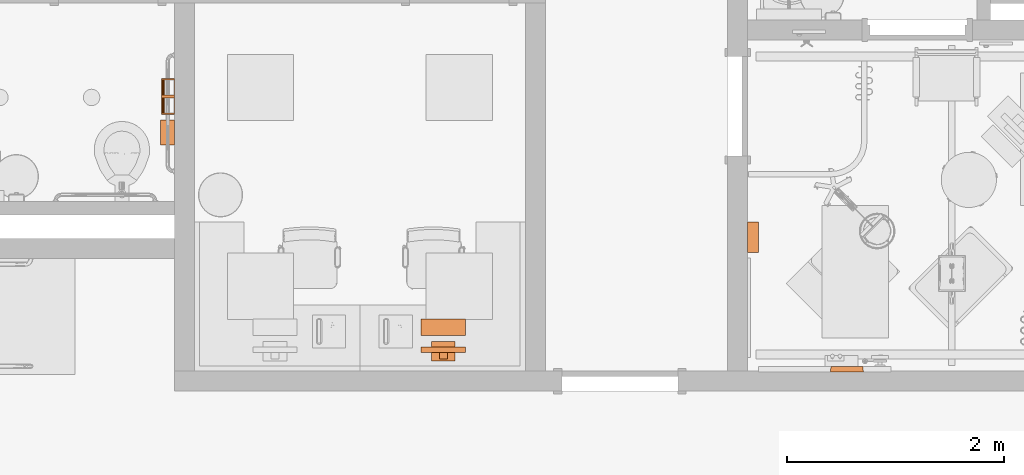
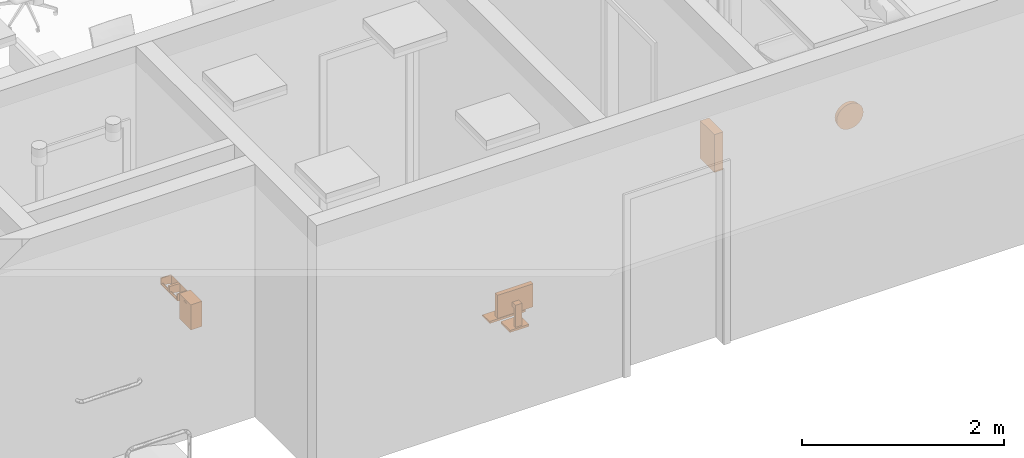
# One storey, part 82 of 142: 5 proxies.
"""IFC2X3 building model written with IfcOpenShell, lengths in feet."""

from ifc_helpers import new_model, entity, si_unit, converted_unit, derived_unit, direction, frame, frame_2d, origin, origin_2d_with_axis, place, context, subcontext, project, spatial, polyline, rectangle, circle, outline, extrude, faceted_brep, source, transform, mapped, type_object, type_shapes, element, save


model = new_model("IFC2X3")

# Units and contexts
model_context = context("Model", 3, precision=0.0001, world=origin(), true_north=direction((6.12303176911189e-17, 1.0)))
body_context = subcontext(model_context, "Body", "Model", "MODEL_VIEW")
ifc_project = project(units=[converted_unit("LENGTHUNIT", "FOOT", entity("IfcRatioMeasure", 0.3048), si_unit("LENGTHUNIT", "METRE"), dimensions=[1, 0, 0, 0, 0, 0, 0]), converted_unit("AREAUNIT", "SQUARE FOOT", entity("IfcRatioMeasure", 0.09290304), si_unit("AREAUNIT", "SQUARE_METRE"), dimensions=[2, 0, 0, 0, 0, 0, 0]), converted_unit("VOLUMEUNIT", "CUBIC FOOT", entity("IfcRatioMeasure", 0.028316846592), si_unit("VOLUMEUNIT", "CUBIC_METRE"), dimensions=[3, 0, 0, 0, 0, 0, 0]), converted_unit("PLANEANGLEUNIT", "DEGREE", entity("IfcRatioMeasure", 0.0174532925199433), si_unit("PLANEANGLEUNIT", "RADIAN"), dimensions=[0, 0, 0, 0, 0, 0, 0]), si_unit("MASSUNIT", "GRAM", prefix="KILO"), derived_unit("MASSDENSITYUNIT", [(si_unit("MASSUNIT", "GRAM", prefix="KILO"), 1), (si_unit("LENGTHUNIT", "METRE"), -3)]), si_unit("TIMEUNIT", "SECOND"), si_unit("FREQUENCYUNIT", "HERTZ"), si_unit("THERMODYNAMICTEMPERATUREUNIT", "DEGREE_CELSIUS"), derived_unit("THERMALTRANSMITTANCEUNIT", [(si_unit("MASSUNIT", "GRAM", prefix="KILO"), 1), (si_unit("THERMODYNAMICTEMPERATUREUNIT", "KELVIN"), -1), (si_unit("TIMEUNIT", "SECOND"), -3)]), derived_unit("VOLUMETRICFLOWRATEUNIT", [(si_unit("LENGTHUNIT", "METRE"), 3), (si_unit("TIMEUNIT", "SECOND"), -1)]), si_unit("ELECTRICCURRENTUNIT", "AMPERE"), si_unit("ELECTRICVOLTAGEUNIT", "VOLT"), si_unit("POWERUNIT", "WATT"), si_unit("FORCEUNIT", "NEWTON"), si_unit("ILLUMINANCEUNIT", "LUX"), si_unit("LUMINOUSFLUXUNIT", "LUMEN"), si_unit("LUMINOUSINTENSITYUNIT", "CANDELA"), derived_unit("USERDEFINED", [(si_unit("MASSUNIT", "GRAM", prefix="KILO"), -1), (si_unit("LENGTHUNIT", "METRE"), -2), (si_unit("TIMEUNIT", "SECOND"), 3), (si_unit("LUMINOUSFLUXUNIT", "LUMEN"), 1)]), derived_unit("LINEARVELOCITYUNIT", [(si_unit("LENGTHUNIT", "METRE"), 1), (si_unit("TIMEUNIT", "SECOND"), -1)]), si_unit("PRESSUREUNIT", "PASCAL"), derived_unit("USERDEFINED", [(si_unit("LENGTHUNIT", "METRE"), -2), (si_unit("MASSUNIT", "GRAM", prefix="KILO"), 1), (si_unit("TIMEUNIT", "SECOND"), -2)])], contexts=[model_context])

# Site, building, storey, space
site_placement = place(None, origin())
site = spatial("IfcSite", under=ifc_project, at=site_placement, Name="Default", CompositionType="ELEMENT")
building_placement = place(site_placement, origin())
building = spatial("IfcBuilding", under=site, at=building_placement, Name="OUTPATIENT / PACT CLINIC (Ch. 265)", CompositionType="ELEMENT")
storey_placement = place(building_placement, origin())
storey = spatial("IfcBuildingStorey", under=building, at=storey_placement, Name="LEVEL 1", CompositionType="ELEMENT", Elevation=0.0)
space_1_placement = place(storey_placement, origin())
space_1 = spatial("IfcSpace", under=storey, at=space_1_placement, Name="FA01", CompositionType="ELEMENT", InteriorOrExteriorSpace="INTERNAL")

# Proxy
building_element_proxy_type_1 = type_object("IfcBuildingElementProxyType", Name="M1801 - Computer with Flat Panel Monitor", PredefinedType="NOTDEFINED")
shared_shape_1 = source(origin(), body_context, "Body", "Brep", [
    faceted_brep([(0.666666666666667, 0.5625, 0.0), (0.666666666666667, 0.5625, 0.0416666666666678), (0.666666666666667, 0.0624999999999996, 0.0833333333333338), (0.666666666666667, 0.0624999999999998, 0.0), (-0.666666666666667, 0.5625, 0.0), (-0.666666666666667, 0.0624999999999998, 0.0), (-0.666666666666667, 0.0624999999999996, 0.0833333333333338), (-0.666666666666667, 0.5625, 0.0416666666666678)], [[[0, 1, 2, 3]], [[4, 5, 6, 7]], [[3, 5, 4, 0]], [[2, 6, 5, 3]], [[1, 7, 6, 2]], [[0, 4, 7, 1]]]),
    faceted_brep([(0.666666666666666, -0.437223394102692, 1.41666666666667), (0.666666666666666, -0.271109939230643, 1.41666666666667), (-0.666666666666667, -0.271109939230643, 1.41666666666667), (-0.666666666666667, -0.437223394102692, 1.41666666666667), (0.666666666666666, -0.437223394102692, 0.500000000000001), (-0.666666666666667, -0.437223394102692, 0.500000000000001), (-0.666666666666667, -0.271109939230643, 0.500000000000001), (0.666666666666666, -0.271109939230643, 0.500000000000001), (-0.625, -0.271109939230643, 1.375), (-0.625, -0.271109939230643, 0.541666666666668), (0.625, -0.271109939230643, 0.541666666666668), (0.625, -0.271109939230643, 1.375), (0.625, -0.286812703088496, 1.375), (-0.625, -0.286812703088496, 1.375), (0.625, -0.286812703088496, 0.541666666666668), (-0.625, -0.286812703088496, 0.541666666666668)], [[[0, 1, 2, 3]], [[4, 5, 6, 7]], [[3, 5, 4, 0]], [[2, 6, 5, 3]], [[8, 9, 10, 11], [1, 7, 6, 2]], [[0, 4, 7, 1]], [[12, 13, 8, 11]], [[14, 10, 9, 15]], [[12, 14, 15, 13]], [[13, 15, 9, 8]], [[11, 10, 14, 12]]], outer=[[True], [True], [True], [True], [False, True], [True], [True], [True], [True], [True], [True]]),
    faceted_brep([(0.358011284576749, -0.111770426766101, 0.0833333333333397), (0.358011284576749, -0.708333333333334, 0.0833333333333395), (0.358011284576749, -0.708333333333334, 0.0), (0.358011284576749, -0.111770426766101, 0.0), (-0.358011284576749, -0.708333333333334, 0.0833333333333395), (-0.358011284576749, -0.111770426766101, 0.0833333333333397), (-0.358011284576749, -0.111770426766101, 0.0), (-0.358011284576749, -0.708333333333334, 0.0), (0.12128795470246, -0.645556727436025, 0.104166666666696), (-0.12128795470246, -0.645556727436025, 0.104166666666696), (-0.12128795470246, -0.645556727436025, 0.0833333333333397), (0.12128795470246, -0.645556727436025, 0.0833333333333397), (0.12128795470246, -0.645556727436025, 0.958333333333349), (-0.12128795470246, -0.645556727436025, 0.958333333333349), (0.12128795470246, -0.437223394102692, 0.958333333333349), (-0.12128795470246, -0.437223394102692, 0.958333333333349), (0.12128795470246, -0.437223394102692, 0.791666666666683), (-0.12128795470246, -0.437223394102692, 0.791666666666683), (0.12128795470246, -0.562223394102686, 0.791666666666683), (-0.12128795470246, -0.562223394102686, 0.791666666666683), (0.12128795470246, -0.562223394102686, 0.0833333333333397), (-0.12128795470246, -0.562223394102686, 0.0833333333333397)], [[[0, 1, 2, 3]], [[4, 5, 6, 7]], [[8, 9, 10, 11]], [[12, 13, 9, 8]], [[14, 15, 13, 12]], [[16, 17, 15, 14]], [[18, 19, 17, 16]], [[20, 21, 19, 18]], [[11, 10, 21, 20], [0, 5, 4, 1]], [[3, 6, 5, 0]], [[2, 7, 6, 3]], [[1, 4, 7, 2]], [[20, 18, 16, 14, 12, 8, 11]], [[10, 9, 13, 15, 17, 19, 21]]], outer=[[True], [True], [True], [True], [True], [True], [True], [True], [False, True], [True], [True], [True], [True], [True]]),
])
type_shapes(building_element_proxy_type_1, [shared_shape_1])
proxy_1_placement = place(space_1_placement, frame((426.06606468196, -951.642848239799, 2.49999999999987)))
element("IfcBuildingElementProxy", 1, at=proxy_1_placement, inside=space_1, type_object=building_element_proxy_type_1, Name="M1801 - Computer with Flat Panel Monitor:M1801 - Computer with Flat Panel Monitor", ObjectType="M1801 - Computer with Flat Panel Monitor", context=body_context, shape_type="MappedRepresentation", body=[
    mapped(shared_shape_1, transform((0.0, 0.0, 0.0), scale=1.0)),
])

# Space
space_2_placement = place(storey_placement, origin())
space_2 = spatial("IfcSpace", under=storey, at=space_2_placement, Name="EXW01", CompositionType="ELEMENT", InteriorOrExteriorSpace="INTERNAL")

# Proxy
building_element_proxy_type_2 = type_object("IfcBuildingElementProxyType", Name="A5107 - Dispenser, Glove, Surgical-Examination, Wall Mntd 10\"x 4\"", PredefinedType="NOTDEFINED")
shared_shape_2 = source(origin(), body_context, "Body", "SweptSolid", [
    extrude(rectangle(XDim=0.916666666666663, YDim=0.333333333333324, at=frame_2d((0.0, 2.77555756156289e-17), x_axis=(1.0, 0.0))), frame((0.0, -0.166666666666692, 0.0), z_axis=(0.0, 0.0, 1.0), x_axis=(-1.0, 0.0, 0.0)), (0.0, 0.0, 1.0), 1.5),
])
type_shapes(building_element_proxy_type_2, [shared_shape_2])
proxy_2_placement = place(space_2_placement, frame((435.254977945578, -948.607989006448, 3.5), z_axis=(0.0, 0.0, 1.0), x_axis=(0.0, 1.0, 0.0)))
element("IfcBuildingElementProxy", 2, at=proxy_2_placement, inside=space_2, type_object=building_element_proxy_type_2, Name="A5107 - Dispenser, Glove, Surgical-Examination, Wall Mntd1:A5107 - Dispenser, Glove, Surgical-Examination, Wall Mntd 10\"x 4\"", ObjectType="A5107 - Dispenser, Glove, Surgical-Examination, Wall Mntd 10\"x 4\"", context=body_context, shape_type="MappedRepresentation", body=[
    mapped(shared_shape_2, transform((0.0, 0.0, 0.0), scale=1.0)),
])

# Space
space_3_placement = place(storey_placement, origin())
space_3 = spatial("IfcSpace", under=storey, at=space_3_placement, Name="TNPG1", CompositionType="ELEMENT", InteriorOrExteriorSpace="INTERNAL")

# Proxies
building_element_proxy_type_3 = type_object("IfcBuildingElementProxyType", Name="A5090 - Dispenser, Sanitary Napkin, SS, Surface Mounted", PredefinedType="NOTDEFINED")
shared_shape_3 = source(origin(), body_context, "Body", "SweptSolid", [
    extrude(rectangle(XDim=0.75, YDim=0.0833333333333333, at=frame_2d((0.0, -6.93889390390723e-18), x_axis=(1.0, 0.0))), frame((0.0, 0.0416666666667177, 0.87500000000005), z_axis=(0.0, 0.0, 1.0), x_axis=(-1.0, 0.0, 0.0)), (0.0, 0.0, 1.0), 0.125000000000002),
    extrude(outline(polyline([(-0.0828981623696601, -0.378205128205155), (0.0421018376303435, -0.378205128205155), (0.042101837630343, -0.0865384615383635), (0.0166807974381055, -0.0793339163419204), (-0.0043447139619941, -0.0589660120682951), (-0.017339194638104, -0.0289565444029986), (-0.0200557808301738, 0.0055055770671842), (-0.0120247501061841, 0.038461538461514), (0.00536525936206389, 0.0642129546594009), (0.0291073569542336, 0.0783071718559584), (0.0421018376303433, 0.0801282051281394), (0.0421018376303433, 0.371794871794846), (-0.0828981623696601, 0.371794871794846), (-0.0828981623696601, -0.378205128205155)])), frame((-0.00320512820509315, 0.0833333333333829, 0.917101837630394), z_axis=(0.0, 1.0, 0.0), x_axis=(0.0, 0.0, -1.0)), (0.0, 0.0, 1.0), 0.333333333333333),
    extrude(rectangle(XDim=0.749999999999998, YDim=0.416666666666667, at=origin_2d_with_axis()), frame((0.0, 0.208333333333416, 0.0), z_axis=(0.0, 0.0, 1.0), x_axis=(-1.0, 0.0, 0.0)), (0.0, 0.0, 1.0), 0.875000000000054),
])
type_shapes(building_element_proxy_type_3, [shared_shape_3])
proxy_3_placement = place(space_3_placement, frame((417.942616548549, -945.441322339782, 1.5), z_axis=(0.0, 0.0, 1.0), x_axis=(0.0, 1.0, 0.0)))
element("IfcBuildingElementProxy", 3, at=proxy_3_placement, inside=space_3, type_object=building_element_proxy_type_3, Name="A5090 - Dispenser, Sanitary Napkin, SS, Surface Mounted1:A5090 - Dispenser, Sanitary Napkin, SS, Surface Mounted", ObjectType="A5090 - Dispenser, Sanitary Napkin, SS, Surface Mounted", context=body_context, shape_type="MappedRepresentation", body=[
    mapped(shared_shape_3, transform((0.0, 0.0, 0.0), scale=1.0)),
])
building_element_proxy_type_4 = type_object("IfcBuildingElementProxyType", Name="A5200 - Dispenser, Toilet Tissue, SS, 2-Roll, Surface Mntd", PredefinedType="NOTDEFINED")
shared_shape_4 = source(origin(), body_context, "Body", "SweptSolid", [
    extrude(circle(Radius=0.0439072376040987, at=frame_2d((-9.86076131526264e-32, 1.11022302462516e-16), x_axis=(1.0, 0.0))), frame((0.0468750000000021, 0.344872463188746, 0.125668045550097), z_axis=(1.0, 0.0, 0.0), x_axis=(0.0, 0.0, 1.0)), (0.0, 0.0, 1.0), 0.453124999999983),
    extrude(circle(Radius=0.0061848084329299, at=origin_2d_with_axis()), frame((0.0468750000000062, 0.34487246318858, 0.125668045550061), z_axis=(1.0, 0.0, 0.0), x_axis=(0.0, 1.0, 0.0)), (0.0, 0.0, 1.0), 0.453124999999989),
    extrude(circle(Radius=0.0439072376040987, at=frame_2d((1.97215226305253e-31, -2.22044604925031e-16), x_axis=(1.0, 0.0))), frame((-0.500000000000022, 0.344872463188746, 0.125668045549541), z_axis=(1.0, 0.0, 0.0), x_axis=(0.0, 0.0, 1.0)), (0.0, 0.0, 1.0), 0.453124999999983),
    extrude(rectangle(XDim=0.541666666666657, YDim=0.0104166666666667, at=frame_2d((0.0, -4.33680868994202e-19), x_axis=(1.0, 0.0))), frame((0.270833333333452, 0.00520833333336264, 0.0), z_axis=(0.0, 0.0, 1.0), x_axis=(-1.0, 0.0, 0.0)), (0.0, 0.0, 1.0), 0.375668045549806),
    extrude(outline(polyline([(-0.225313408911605, -0.140625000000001), (0.150354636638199, -0.140625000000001), (0.150354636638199, -0.114583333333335), (0.108687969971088, -0.114583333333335), (0.0412295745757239, 0.255208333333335), (-0.225313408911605, 0.255208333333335), (-0.225313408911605, -0.140625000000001)])), frame((0.0, 0.140625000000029, 0.15035463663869), z_axis=(1.0, 0.0, 0.0), x_axis=(0.0, 0.0, -1.0)), (0.0, 0.0, 1.0), 0.0468750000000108),
    extrude(outline(polyline([(-0.225313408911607, -0.140625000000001), (0.150354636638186, -0.140625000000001), (0.150354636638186, -0.114583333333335), (0.108687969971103, -0.114583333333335), (0.0412295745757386, 0.255208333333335), (-0.225313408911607, 0.255208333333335), (-0.225313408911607, -0.140625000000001)])), frame((0.49999999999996, 0.140625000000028, 0.150354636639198), z_axis=(1.0, 0.0, 0.0), x_axis=(0.0, 0.0, -1.0)), (0.0, 0.0, 1.0), 0.0416666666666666),
    extrude(circle(Radius=0.0061848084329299, at=frame_2d((2.46519032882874e-32, -2.77555756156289e-17), x_axis=(1.0, 0.0))), frame((-0.500000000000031, 0.344872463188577, 0.125668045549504), z_axis=(1.0, 0.0, 0.0), x_axis=(0.0, 1.0, 0.0)), (0.0, 0.0, 1.0), 0.453124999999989),
    extrude(rectangle(XDim=0.541666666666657, YDim=0.0104166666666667, at=frame_2d((0.0, 4.33680868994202e-19), x_axis=(1.0, 0.0))), frame((-0.27083333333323, 0.00520833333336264, 0.0), z_axis=(0.0, 0.0, 1.0), x_axis=(-1.0, 0.0, 0.0)), (0.0, 0.0, 1.0), 0.375668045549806),
    extrude(outline(polyline([(-0.225313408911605, -0.140625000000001), (0.150354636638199, -0.140625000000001), (0.150354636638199, -0.114583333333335), (0.108687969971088, -0.114583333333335), (0.041229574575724, 0.255208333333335), (-0.225313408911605, 0.255208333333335), (-0.225313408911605, -0.140625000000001)])), frame((-0.0468750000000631, 0.140625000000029, 0.150354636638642), z_axis=(1.0, 0.0, 0.0), x_axis=(0.0, 0.0, -1.0)), (0.0, 0.0, 1.0), 0.0468750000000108),
    extrude(outline(polyline([(-0.225313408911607, -0.140625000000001), (0.150354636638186, -0.140625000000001), (0.150354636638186, -0.114583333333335), (0.108687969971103, -0.114583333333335), (0.0412295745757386, 0.255208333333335), (-0.225313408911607, 0.255208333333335), (-0.225313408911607, -0.140625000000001)])), frame((-0.541666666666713, 0.140625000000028, 0.150354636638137), z_axis=(1.0, 0.0, 0.0), x_axis=(0.0, 0.0, -1.0)), (0.0, 0.0, 1.0), 0.0416666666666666),
])
type_shapes(building_element_proxy_type_4, [shared_shape_4])
proxy_4_placement = place(space_3_placement, frame((417.942616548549, -944.357989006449, 1.97884114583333), z_axis=(0.0, 0.0, 1.0), x_axis=(0.0, 1.0, 0.0)))
element("IfcBuildingElementProxy", 4, at=proxy_4_placement, inside=space_3, type_object=building_element_proxy_type_4, Name="A5200 - Dispenser, Toilet Tissue, SS, 2-Roll, Surface Mntd1:A5200 - Dispenser, Toilet Tissue, SS, 2-Roll, Surface Mntd", ObjectType="A5200 - Dispenser, Toilet Tissue, SS, 2-Roll, Surface Mntd", context=body_context, shape_type="MappedRepresentation", body=[
    mapped(shared_shape_4, transform((0.0, 0.0, 0.0), scale=1.0)),
])
building_element_proxy_type_5 = type_object("IfcBuildingElementProxyType", Name="F3200 - Clock, Battery, 12in Dia", PredefinedType="NOTDEFINED")
shared_shape_5 = source(origin(), body_context, "Body", "Brep", [
    faceted_brep([(0.0527623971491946, -0.166666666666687, -0.0087350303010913), (0.143371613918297, -0.166666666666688, 0.0607918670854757), (0.212898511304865, -0.16666666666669, 0.151401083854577), (0.256604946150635, -0.166666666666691, 0.256917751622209), (0.271512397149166, -0.166666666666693, 0.370151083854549), (0.256604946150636, -0.166666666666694, 0.483384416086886), (0.212898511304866, -0.166666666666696, 0.588901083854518), (0.143371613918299, -0.166666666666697, 0.67951030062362), (0.052762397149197, -0.166666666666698, 0.749037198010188), (-0.0527542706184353, -0.166666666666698, 0.792743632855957), (-0.165987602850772, -0.166666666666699, 0.807651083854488), (-0.279220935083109, -0.166666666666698, 0.792743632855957), (-0.384737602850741, -0.166666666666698, 0.749037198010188), (-0.475346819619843, -0.166666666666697, 0.679510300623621), (-0.544873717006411, -0.166666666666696, 0.588901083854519), (-0.588580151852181, -0.166666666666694, 0.483384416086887), (-0.603487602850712, -0.166666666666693, 0.37015108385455), (-0.588580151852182, -0.166666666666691, 0.256917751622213), (-0.544873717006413, -0.16666666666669, 0.151401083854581), (-0.475346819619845, -0.166666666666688, 0.0607918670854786), (-0.384737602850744, -0.166666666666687, -0.0087350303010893), (-0.279220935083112, -0.166666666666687, -0.052441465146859), (-0.165987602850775, -0.166666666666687, -0.0673489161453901), (-0.0527542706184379, -0.166666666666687, -0.0524414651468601), (0.256604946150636, -0.145833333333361, 0.483384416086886), (0.271512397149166, -0.145833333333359, 0.370151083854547), (0.256604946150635, -0.145833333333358, 0.256917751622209), (0.212898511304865, -0.145833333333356, 0.151401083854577), (0.143371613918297, -0.145833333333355, 0.0607918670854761), (0.0527623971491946, -0.145833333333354, -0.00873503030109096), (-0.0527542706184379, -0.145833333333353, -0.0524414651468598), (-0.165987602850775, -0.145833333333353, -0.0673489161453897), (-0.279220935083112, -0.145833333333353, -0.0524414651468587), (-0.384737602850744, -0.145833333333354, -0.00873503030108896), (-0.475346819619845, -0.145833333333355, 0.060791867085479), (-0.544873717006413, -0.145833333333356, 0.151401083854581), (-0.588580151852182, -0.145833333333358, 0.256917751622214), (-0.603487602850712, -0.145833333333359, 0.37015108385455), (-0.588580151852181, -0.145833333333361, 0.483384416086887), (-0.544873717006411, -0.145833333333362, 0.588901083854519), (-0.475346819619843, -0.145833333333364, 0.679510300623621), (-0.384737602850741, -0.145833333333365, 0.749037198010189), (-0.279220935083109, -0.145833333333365, 0.792743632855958), (-0.165987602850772, -0.145833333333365, 0.807651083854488), (-0.0527542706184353, -0.145833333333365, 0.792743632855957), (0.052762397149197, -0.145833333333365, 0.749037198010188), (0.143371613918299, -0.145833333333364, 0.67951030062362), (0.212898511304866, -0.145833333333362, 0.588901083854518)], [[[0, 1, 2, 3, 4, 5, 6, 7, 8, 9, 10, 11, 12, 13, 14, 15, 16, 17, 18, 19, 20, 21, 22, 23]], [[24, 25, 26, 27, 28, 29, 30, 31, 32, 33, 34, 35, 36, 37, 38, 39, 40, 41, 42, 43, 44, 45, 46, 47]], [[36, 17, 16, 37]], [[35, 18, 17, 36]], [[20, 19, 34, 33]], [[35, 34, 19, 18]], [[21, 20, 33, 32]], [[22, 21, 32, 31]], [[30, 23, 22, 31]], [[29, 0, 23, 30]], [[2, 1, 28, 27]], [[29, 28, 1, 0]], [[3, 2, 27, 26]], [[4, 3, 26, 25]], [[24, 5, 4, 25]], [[47, 6, 5, 24]], [[8, 7, 46, 45]], [[47, 46, 7, 6]], [[9, 8, 45, 44]], [[10, 9, 44, 43]], [[11, 10, 43, 42]], [[12, 11, 42, 41]], [[14, 39, 38, 15]], [[15, 38, 37, 16]], [[12, 41, 40, 13]], [[40, 39, 14, 13]]]),
    faceted_brep([(-0.493417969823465, 0.0, -0.00772370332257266), (-0.586614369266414, 0.0, 0.0998306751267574), (-0.165987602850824, 0.0, 0.370151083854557), (-0.373695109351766, 0.0, -0.0846649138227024), (-0.645734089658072, 0.0, 0.229284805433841), (-0.665987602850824, 0.0, 0.370151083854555), (-0.645734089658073, 0.0, 0.51101736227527), (-0.586614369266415, 0.0, 0.640471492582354), (-0.493417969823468, 0.0, 0.748025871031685), (-0.373695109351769, 0.0, 0.824967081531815), (-0.237145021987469, 0.0, 0.865061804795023), (-0.0948301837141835, 0.0, 0.865061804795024), (0.0417199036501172, 0.0, 0.824967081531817), (0.161442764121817, 0.0, 0.748025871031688), (0.254639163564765, 0.0, 0.640471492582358), (0.313758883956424, 0.0, 0.511017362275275), (0.334012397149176, 0.0, 0.370151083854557), (0.313758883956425, 0.0, 0.229284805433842), (0.254639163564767, 0.0, 0.0998306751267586), (0.161442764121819, 0.0, -0.00772370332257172), (0.0417199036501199, 0.0, -0.0846649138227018), (-0.0948301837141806, 0.0, -0.124759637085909), (-0.237145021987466, 0.0, -0.124759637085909), (-0.165987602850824, -0.145833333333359, 0.370151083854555), (-0.534036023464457, -0.145833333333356, 0.133620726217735), (-0.452489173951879, -0.145833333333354, 0.0395106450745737), (-0.585765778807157, -0.145833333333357, 0.246893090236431), (-0.347731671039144, -0.145833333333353, -0.0278129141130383), (-0.228250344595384, -0.145833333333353, -0.0628957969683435), (-0.603487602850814, -0.145833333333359, 0.370151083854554), (-0.103724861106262, -0.145833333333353, -0.0628957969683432), (0.0157564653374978, -0.145833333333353, -0.0278129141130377), (0.120513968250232, -0.145833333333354, 0.0395106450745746), (0.20206081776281, -0.145833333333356, 0.133620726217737), (0.253790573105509, -0.145833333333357, 0.246893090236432), (0.271512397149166, -0.145833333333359, 0.370151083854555), (-0.585765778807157, -0.145833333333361, 0.493409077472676), (-0.534036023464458, -0.145833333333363, 0.606681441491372), (-0.452489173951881, -0.145833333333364, 0.700791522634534), (-0.347731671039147, -0.145833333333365, 0.768115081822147), (-0.228250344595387, -0.145833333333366, 0.803197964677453), (0.253790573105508, -0.145833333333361, 0.49340907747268), (0.202060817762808, -0.145833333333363, 0.606681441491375), (0.12051396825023, -0.145833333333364, 0.700791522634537), (0.0157564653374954, -0.145833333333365, 0.768115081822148), (-0.103724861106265, -0.145833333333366, 0.803197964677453), (0.253790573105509, -0.166666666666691, 0.246893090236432), (0.271512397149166, -0.166666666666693, 0.370151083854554), (0.20206081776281, -0.166666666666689, 0.133620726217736), (-0.103724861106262, -0.166666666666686, -0.0628957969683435), (0.0157564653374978, -0.166666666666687, -0.0278129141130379), (0.120513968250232, -0.166666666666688, 0.0395106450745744), (-0.228250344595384, -0.166666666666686, -0.0628957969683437), (-0.452489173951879, -0.166666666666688, 0.0395106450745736), (-0.347731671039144, -0.166666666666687, -0.0278129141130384), (-0.603487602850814, -0.166666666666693, 0.370151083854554), (-0.585765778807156, -0.166666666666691, 0.246893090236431), (-0.534036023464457, -0.166666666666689, 0.133620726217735), (-0.585765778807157, -0.166666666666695, 0.493409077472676), (-0.534036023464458, -0.166666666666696, 0.606681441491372), (-0.347731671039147, -0.166666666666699, 0.768115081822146), (-0.452489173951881, -0.166666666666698, 0.700791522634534), (-0.228250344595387, -0.166666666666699, 0.803197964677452), (-0.103724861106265, -0.166666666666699, 0.803197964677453), (0.0157564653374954, -0.166666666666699, 0.768115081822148), (0.12051396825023, -0.166666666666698, 0.700791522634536), (0.253790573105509, -0.166666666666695, 0.493409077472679), (0.202060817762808, -0.166666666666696, 0.606681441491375), (-0.62574465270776, -0.166666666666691, 0.235154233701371), (-0.64515426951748, -0.166666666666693, 0.370151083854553), (-0.569088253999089, -0.166666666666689, 0.111094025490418), (-0.479775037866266, -0.166666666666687, 0.00802107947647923), (-0.365040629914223, -0.166666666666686, -0.0657142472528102), (-0.234180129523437, -0.166666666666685, -0.104138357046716), (-0.0977950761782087, -0.166666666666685, -0.104138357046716), (0.0330654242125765, -0.166666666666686, -0.0657142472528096), (0.147799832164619, -0.166666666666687, 0.00802107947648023), (0.237113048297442, -0.166666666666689, 0.11109402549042), (0.293769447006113, -0.166666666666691, 0.235154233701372), (0.313179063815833, -0.166666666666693, 0.370151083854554), (0.293769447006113, -0.166666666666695, 0.50514793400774), (0.237113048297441, -0.166666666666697, 0.629208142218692), (0.147799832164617, -0.166666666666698, 0.732281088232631), (0.0330654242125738, -0.1666666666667, 0.80601641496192), (-0.0977950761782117, -0.1666666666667, 0.844440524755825), (-0.23418012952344, -0.1666666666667, 0.844440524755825), (-0.365040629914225, -0.1666666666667, 0.806016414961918), (-0.479775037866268, -0.166666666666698, 0.732281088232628), (-0.569088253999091, -0.166666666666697, 0.629208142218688), (-0.625744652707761, -0.166666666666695, 0.505147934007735)], [[[0, 1, 2]], [[0, 2, 3]], [[4, 2, 1]], [[2, 4, 5]], [[5, 6, 2]], [[2, 6, 7]], [[2, 7, 8]], [[2, 8, 9]], [[9, 10, 2]], [[11, 2, 10]], [[2, 11, 12]], [[2, 12, 13]], [[14, 2, 13]], [[2, 14, 15]], [[15, 16, 2]], [[2, 16, 17]], [[2, 17, 18]], [[18, 19, 2]], [[19, 20, 2]], [[21, 2, 20]], [[2, 21, 22]], [[22, 3, 2]], [[23, 24, 25]], [[24, 23, 26]], [[27, 23, 25]], [[23, 27, 28]], [[29, 26, 23]], [[28, 30, 23]], [[31, 23, 30]], [[23, 31, 32]], [[23, 32, 33]], [[33, 34, 23]], [[34, 35, 23]], [[23, 36, 29]], [[37, 36, 23]], [[38, 37, 23]], [[39, 38, 23]], [[23, 40, 39]], [[23, 35, 41]], [[41, 42, 23]], [[43, 23, 42]], [[43, 44, 23]], [[44, 45, 23]], [[40, 23, 45]], [[46, 47, 35, 34]], [[46, 34, 33, 48]], [[31, 30, 49, 50]], [[32, 31, 50, 51]], [[51, 48, 33, 32]], [[30, 28, 52, 49]], [[27, 25, 53, 54]], [[28, 27, 54, 52]], [[29, 55, 56, 26]], [[26, 56, 57, 24]], [[24, 57, 53, 25]], [[55, 29, 36, 58]], [[58, 36, 37, 59]], [[60, 61, 38, 39]], [[59, 37, 38, 61]], [[39, 40, 62, 60]], [[40, 45, 63, 62]], [[64, 63, 45, 44]], [[64, 44, 43, 65]], [[41, 35, 47, 66]], [[42, 41, 66, 67]], [[67, 65, 43, 42]], [[68, 55, 69]], [[56, 55, 68]], [[68, 70, 56]], [[70, 57, 56]], [[71, 57, 70]], [[57, 71, 53]], [[72, 53, 71]], [[54, 53, 72]], [[72, 73, 54]], [[73, 52, 54]], [[49, 52, 73]], [[73, 74, 49]], [[74, 50, 49]], [[75, 50, 74]], [[50, 75, 51]], [[76, 51, 75]], [[48, 51, 76]], [[76, 77, 48]], [[77, 46, 48]], [[78, 46, 77]], [[46, 78, 47]], [[78, 79, 47]], [[79, 80, 47]], [[66, 47, 80]], [[80, 81, 66]], [[66, 81, 67]], [[82, 67, 81]], [[67, 82, 65]], [[65, 82, 83]], [[64, 65, 83]], [[83, 84, 64]], [[64, 84, 63]], [[85, 63, 84]], [[63, 85, 62]], [[62, 85, 60]], [[86, 60, 85]], [[60, 86, 61]], [[61, 86, 87]], [[59, 61, 87]], [[87, 88, 59]], [[59, 88, 58]], [[89, 58, 88]], [[55, 89, 69]], [[58, 89, 55]], [[78, 17, 16, 79]], [[77, 18, 17, 78]], [[19, 76, 75, 20]], [[77, 76, 19, 18]], [[20, 75, 74, 21]], [[74, 73, 22, 21]], [[22, 73, 72, 3]], [[0, 3, 72, 71]], [[4, 1, 70, 68]], [[70, 1, 0, 71]], [[5, 4, 68, 69]], [[89, 6, 5, 69]], [[88, 7, 6, 89]], [[8, 87, 86, 9]], [[88, 87, 8, 7]], [[9, 86, 85, 10]], [[85, 84, 11, 10]], [[83, 12, 11, 84]], [[82, 13, 12, 83]], [[14, 81, 80, 15]], [[82, 81, 14, 13]], [[15, 80, 79, 16]]]),
])
type_shapes(building_element_proxy_type_5, [shared_shape_5])
proxy_5_placement = place(space_2_placement, frame((438.088990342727, -952.675697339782, 6.5), z_axis=(0.0, 0.0, 1.0), x_axis=(-1.0, 0.0, 0.0)))
element("IfcBuildingElementProxy", 5, at=proxy_5_placement, inside=space_2, type_object=building_element_proxy_type_5, Name="F3200 - Clock, Battery, 12in Dia:F3200 - Clock, Battery, 12in Dia", ObjectType="F3200 - Clock, Battery, 12in Dia", context=body_context, shape_type="MappedRepresentation", body=[
    mapped(shared_shape_5, transform((0.0, 0.0, 0.0), scale=1.0)),
])

save(model, "model.ifc")
